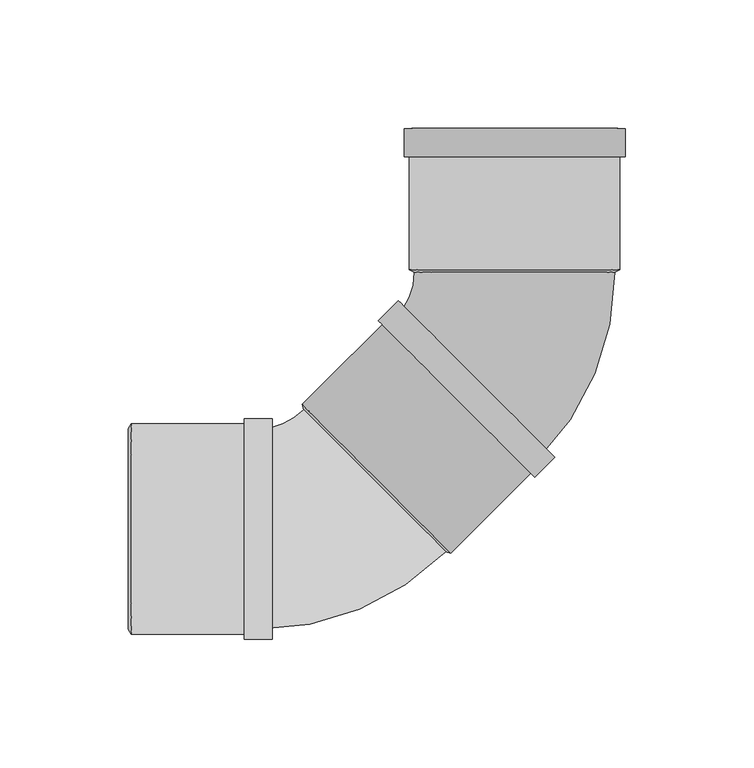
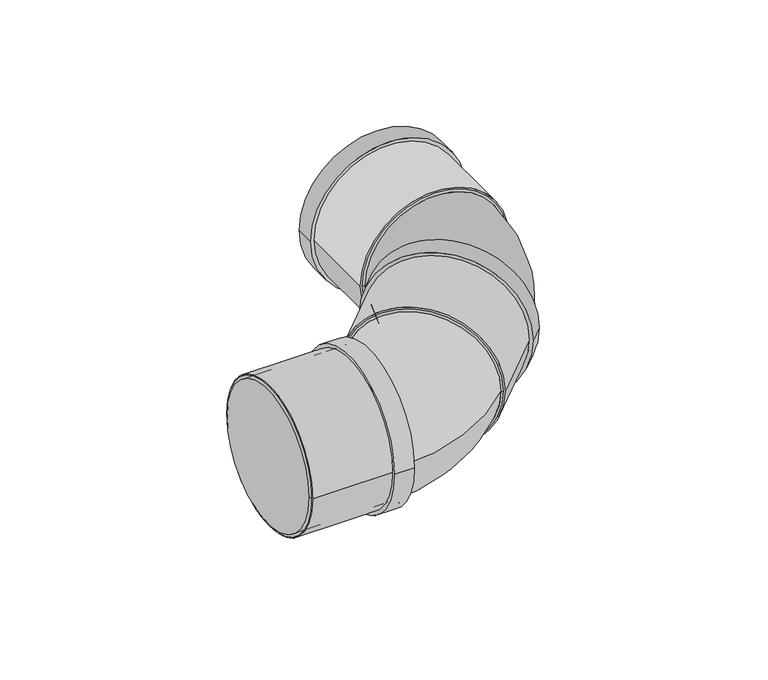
"""IFC4 building model written with IfcOpenShell, lengths in millimetres: pipe fitting geometry, Superdrain SK Bend_Composite 2x45 : Superdrain SK Bend_Composite 2x45."""

from ifc_helpers import new_model, si_unit, point, frame, origin, origin_2d, place, context, project, spatial, polyline, circle_curve, ellipse_curve, trimmed, segment, composite_curve, outline, extrude, source, transform, mapped, element, save
from ifc_brep_helpers import plane_surface, revolved_surface, advanced_brep


def pipe_fitting_2d7897f2(model_context):
    return source(origin(), model_context, "Body", "SolidModel", [
        advanced_brep(
        [(39.0, 99.8562625, 0.0), (-39.0, 99.8562625, 0.0), (8.7681241, 26.8700577, 0.0), (-46.3862048, 82.0243866, 0.0)],
        [
            (0, 1, circle_curve(frame((0.0, 99.8562625, 0.0), z_axis=(0.0, 1.0, 0.0), x_axis=(-1.0, 0.0, 0.0)), 39.0)),
            (1, 0, circle_curve(frame((0.0, 99.8562625, 0.0), z_axis=(0.0, 0.9999999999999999, 0.0), x_axis=(-0.9999999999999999, 0.0, 0.0)), 39.0)),
            (2, 3, circle_curve(frame((-18.8090404, 54.4472222, 0.0), z_axis=(-0.7071067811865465, -0.7071067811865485, 0.0), x_axis=(-0.7071067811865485, 0.7071067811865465, 0.0)), 39.0)),
            (3, 2, circle_curve(frame((-18.8090404, 54.4472222, 0.0), z_axis=(-0.7071067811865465, -0.7071067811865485, 0.0), x_axis=(-0.7071067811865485, 0.7071067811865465, 0.0)), 39.0)),
            (3, 1, circle_curve(frame((-64.2180808, 99.8562625, 0.0), z_axis=(0.0, 0.0, 1.0), x_axis=(0.7071067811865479, 0.707106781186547, 0.0)), 25.2180808)),
            (0, 2, circle_curve(frame((-64.2180808, 99.8562625, 0.0), z_axis=(0.0, 0.0, -1.0), x_axis=(0.7071067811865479, 0.707106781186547, 0.0)), 103.2180808)),
        ],
        [
            plane_surface(frame((0.0, 99.8562625, 0.0), z_axis=(0.0, 1.0, 0.0), x_axis=(0.0, 0.0, -1.0))),
            plane_surface(frame((-18.8090404, 54.4472222, 0.0), z_axis=(-0.7071067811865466, -0.7071067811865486, 0.0), x_axis=(0.0, 0.0, -1.0))),
            revolved_surface(trimmed(ellipse_curve(frame((-18.8090404, 145.2653029, 0.0), z_axis=(0.707106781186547, -0.7071067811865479, 0.0), x_axis=(-0.7071067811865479, -0.707106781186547, 0.0)), 39.0, 39.0), [point((-46.3862048, 117.6881384, 0.0))], [point((8.7681241, 172.8424674, 0.0))], True, "CARTESIAN"), (-64.2180808, 99.8562625, 0.0), (0.0, 0.0, 1.0)),
            revolved_surface(trimmed(ellipse_curve(frame((-18.8090404, 145.2653029, 0.0), z_axis=(0.707106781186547, -0.7071067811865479, 0.0), x_axis=(-0.7071067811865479, -0.707106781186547, 0.0)), 39.0, 39.0), [point((8.7681241, 172.8424674, 0.0))], [point((-46.3862048, 117.6881384, 0.0))], True, "CARTESIAN"), (-64.2180808, 99.8562625, 0.0), (0.0, 0.0, 1.0)),
        ],
        [
            (0, [[1, 2]]),
            (1, [[3, 4]]),
            (2, [[-4, 5, -1, 6]]),
            (3, [[-3, -6, -2, -5]]),
        ],
    ),
        extrude(outline(composite_curve([segment(trimmed(circle_curve(origin_2d(), 40.95), [point((0.0, 40.95))], [point((0.0, -40.95))], False, "CARTESIAN"), True, "CONTINUOUS"), segment(trimmed(circle_curve(origin_2d(), 40.95), [point((0.0, -40.95))], [point((0.0, 40.95))], False, "CARTESIAN"), True, "CONTINUOUS")], self_intersect=False), holes=[composite_curve([segment(trimmed(circle_curve(origin_2d(), 39.0), [point((0.0, 39.0))], [point((0.0, -39.0))], True, "CARTESIAN"), True, "CONTINUOUS"), segment(trimmed(circle_curve(origin_2d(), 39.0), [point((0.0, -39.0))], [point((0.0, 39.0))], True, "CARTESIAN"), True, "CONTINUOUS")], self_intersect=False)]), frame((0.0, 100.8562625, 0.0), z_axis=(0.0, 1.0, 0.0), x_axis=(0.0, 0.0, 1.0)), (0.0, 0.0, 1.0), 55.0),
        extrude(outline(composite_curve([segment(trimmed(circle_curve(origin_2d(), 42.9975), [point((0.0, -42.9975))], [point((0.0, 42.9975))], False, "CARTESIAN"), True, "CONTINUOUS"), segment(trimmed(circle_curve(origin_2d(), 42.9975), [point((0.0, 42.9975))], [point((0.0, -42.9975))], False, "CARTESIAN"), True, "CONTINUOUS")], self_intersect=False), holes=[composite_curve([segment(trimmed(circle_curve(origin_2d(), 39.0), [point((0.0, -39.0))], [point((0.0, 39.0))], True, "CARTESIAN"), True, "CONTINUOUS"), segment(trimmed(circle_curve(origin_2d(), 39.0), [point((0.0, 39.0))], [point((0.0, -39.0))], True, "CARTESIAN"), True, "CONTINUOUS")], self_intersect=False)]), frame((0.0, 144.8562625, 0.0), z_axis=(0.0, 1.0, 0.0), x_axis=(0.0, 0.0, 1.0)), (0.0, 0.0, 1.0), 11.0),
        advanced_brep(
        [(40.95, 100.8562625, 0.0), (-40.95, 100.8562625, 0.0), (39.0, 99.8562625, 0.0), (-39.0, 99.8562625, 0.0)],
        [
            (0, 1, circle_curve(frame((0.0, 100.8562625, 0.0), z_axis=(0.0, 1.0, 0.0), x_axis=(0.9999999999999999, 0.0, 0.0)), 40.95)),
            (1, 0, circle_curve(frame((0.0, 100.8562625, 0.0), z_axis=(0.0, 1.0, 0.0), x_axis=(-1.0, 0.0, 0.0)), 40.95)),
            (2, 3, circle_curve(frame((0.0, 99.8562625, 0.0), z_axis=(0.0, -1.0, 0.0), x_axis=(-1.0, 0.0, 0.0)), 39.0)),
            (3, 2, circle_curve(frame((0.0, 99.8562625, 0.0), z_axis=(0.0, -1.0, 0.0), x_axis=(0.9999999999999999, 0.0, 0.0)), 39.0)),
            (3, 1),
            (0, 2),
        ],
        [
            plane_surface(frame((0.0, 100.8562625, 0.0), z_axis=(0.0, 1.0, 0.0), x_axis=(0.0, 0.0, -1.0))),
            plane_surface(frame((0.0, 99.8562625, 0.0), z_axis=(0.0, -1.0, 0.0), x_axis=(0.0, 0.0, -1.0))),
            revolved_surface(polyline([(-39.0, 99.8562625, 0.0), (-40.95, 100.8562625, 0.0)]), (0.0, 79.8562625, 0.0), (0.0, 0.9999999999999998, 0.0)),
            revolved_surface(polyline([(39.0, 99.8562625, 0.0), (40.95, 100.8562625, 0.0)]), (0.0, 79.8562625, 0.0), (0.0, 0.9999999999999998, 0.0)),
        ],
        [
            (0, [[1, 2]]),
            (1, [[3, 4]]),
            (2, [[-4, 5, -1, 6]]),
            (3, [[-3, -6, -2, -5]]),
        ],
    ),
        extrude(outline(composite_curve([segment(trimmed(circle_curve(origin_2d(), 39.0), [point((0.0, -39.0))], [point((0.0, 38.9999999))], False, "CARTESIAN"), True, "CONTINUOUS"), segment(trimmed(circle_curve(origin_2d(), 39.0), [point((0.0, 38.9999999))], [point((0.0, -39.0))], False, "CARTESIAN"), True, "CONTINUOUS")], self_intersect=False)), frame((-53.7401154, 19.5161472, 0.0), z_axis=(0.707106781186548, 0.7071067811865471, 0.0), x_axis=(0.0, 0.0, -1.0)), (0.0, 0.0, 1.0), 49.4),
        extrude(outline(composite_curve([segment(trimmed(circle_curve(origin_2d(), 40.95), [point((40.95, 0.0))], [point((-40.95, 0.0))], False, "CARTESIAN"), True, "CONTINUOUS"), segment(trimmed(circle_curve(origin_2d(), 40.95), [point((-40.95, 0.0))], [point((40.95, 0.0))], False, "CARTESIAN"), True, "CONTINUOUS")], self_intersect=False), holes=[composite_curve([segment(trimmed(circle_curve(origin_2d(), 39.0), [point((39.0, 0.0))], [point((-39.0, 0.0))], True, "CARTESIAN"), True, "CONTINUOUS"), segment(trimmed(circle_curve(origin_2d(), 39.0), [point((-39.0, 0.0))], [point((39.0, 0.0))], True, "CARTESIAN"), True, "CONTINUOUS")], self_intersect=False)]), frame((-149.2562625, 0.0, 0.0), z_axis=(1.0, 0.0, 0.0), x_axis=(0.0, 1.0, 0.0)), (0.0, 0.0, 1.0), 55.0),
        extrude(outline(composite_curve([segment(trimmed(circle_curve(origin_2d(), 42.9975), [point((42.9975, 0.0))], [point((-42.9975, 0.0))], False, "CARTESIAN"), True, "CONTINUOUS"), segment(trimmed(circle_curve(origin_2d(), 42.9975), [point((-42.9975, 0.0))], [point((42.9975, 0.0))], False, "CARTESIAN"), True, "CONTINUOUS")], self_intersect=False), holes=[composite_curve([segment(trimmed(circle_curve(origin_2d(), 39.0), [point((39.0, 0.0))], [point((-39.0, 0.0))], True, "CARTESIAN"), True, "CONTINUOUS"), segment(trimmed(circle_curve(origin_2d(), 39.0), [point((-39.0, 0.0))], [point((39.0, 0.0))], True, "CARTESIAN"), True, "CONTINUOUS")], self_intersect=False)]), frame((-105.2562625, 0.0, 0.0), z_axis=(1.0, 0.0, 0.0), x_axis=(0.0, 1.0, 0.0)), (0.0, 0.0, 1.0), 11.0),
        advanced_brep(
        [(-150.2562625, 39.0, 0.0), (-150.2562625, -39.0, 0.0), (-149.2562625, 40.95, 0.0), (-149.2562625, -40.95, 0.0)],
        [
            (0, 1, circle_curve(frame((-150.2562625, 0.0, 0.0), z_axis=(-1.0, 0.0, 0.0), x_axis=(0.0, 1.0000000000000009, 0.0)), 39.0)),
            (1, 0, circle_curve(frame((-150.2562625, 0.0, 0.0), z_axis=(-1.0, 0.0, 0.0), x_axis=(0.0, -1.0000000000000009, 0.0)), 39.0)),
            (2, 3, circle_curve(frame((-149.2562625, 0.0, 0.0), z_axis=(1.0, 0.0, 0.0), x_axis=(0.0, -1.0000000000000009, 0.0)), 40.95)),
            (3, 2, circle_curve(frame((-149.2562625, 0.0, 0.0), z_axis=(1.0, 0.0, 0.0), x_axis=(0.0, 1.0000000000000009, 0.0)), 40.95)),
            (3, 1),
            (0, 2),
        ],
        [
            plane_surface(frame((-150.2562625, 0.0, 0.0), z_axis=(-1.0, 0.0, 0.0), x_axis=(0.0, 0.0, -1.0))),
            plane_surface(frame((-149.2562625, 0.0, 0.0), z_axis=(1.0, 0.0, 0.0), x_axis=(0.0, 0.0, -1.0))),
            revolved_surface(polyline([(-150.2562625, 38.99999999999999, 0.0), (-149.2562625, 40.95, 0.0)]), (-170.2562625, 0.0, 0.0), (1.0000000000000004, 0.0, 0.0)),
            revolved_surface(polyline([(-150.2562625, -38.99999999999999, 0.0), (-149.2562625, -40.95, 0.0)]), (-170.2562625, 0.0, 0.0), (1.0000000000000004, 0.0, 0.0)),
        ],
        [
            (0, [[1, 2]]),
            (1, [[3, 4]]),
            (2, [[-4, 5, -1, 6]]),
            (3, [[-3, -6, -2, -5]]),
        ],
    ),
        advanced_brep(
        [(-26.8700577, -8.7681241, 0.0), (-82.0243866, 46.3862048, 0.0), (-99.8562625, -39.0, 0.0), (-99.8562625, 39.0, 0.0)],
        [
            (0, 1, circle_curve(frame((-54.4472222, 18.8090404, 0.0), z_axis=(0.7071067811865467, 0.7071067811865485, 0.0), x_axis=(-0.7071067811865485, 0.7071067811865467, 0.0)), 39.0)),
            (1, 0, circle_curve(frame((-54.4472222, 18.8090404, 0.0), z_axis=(0.7071067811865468, 0.7071067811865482, 0.0), x_axis=(-0.7071067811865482, 0.7071067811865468, 0.0)), 39.0)),
            (2, 3, circle_curve(frame((-99.8562625, 0.0, 0.0), z_axis=(-1.0, 0.0, 0.0), x_axis=(0.0, 1.0, 0.0)), 39.0)),
            (3, 2, circle_curve(frame((-99.8562625, 0.0, 0.0), z_axis=(-1.0, 0.0, 0.0), x_axis=(0.0, 1.0, 0.0)), 39.0)),
            (3, 1, circle_curve(frame((-99.8562625, 64.2180808, 0.0), z_axis=(0.0, 0.0, 1.0), x_axis=(1.0, 0.0, 0.0)), 25.2180808)),
            (0, 2, circle_curve(frame((-99.8562625, 64.2180808, 0.0), z_axis=(0.0, 0.0, -1.0), x_axis=(1.0, 0.0, 0.0)), 103.2180808)),
        ],
        [
            plane_surface(frame((-54.4472222, 18.8090404, 0.0), z_axis=(0.7071067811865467, 0.7071067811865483, 0.0), x_axis=(0.0, 0.0, -1.0))),
            plane_surface(frame((-99.8562625, 0.0, 0.0), z_axis=(-1.0, 0.0, 0.0), x_axis=(0.0, 0.0, -1.0))),
            revolved_surface(trimmed(ellipse_curve(frame((-35.6381818, 64.2180808, 0.0), z_axis=(0.0, -1.0, 0.0), x_axis=(-1.0, 0.0, 0.0)), 39.0, 39.0), [point((-74.6381818, 64.2180808, 0.0))], [point((3.3618182, 64.2180808, 0.0))], True, "CARTESIAN"), (-99.8562625, 64.2180808, 0.0), (0.0, 0.0, 1.0)),
            revolved_surface(trimmed(ellipse_curve(frame((-35.6381818, 64.2180808, 0.0), z_axis=(0.0, -1.0, 0.0), x_axis=(-1.0, 0.0, 0.0)), 39.0, 39.0), [point((3.3618182, 64.2180808, 0.0))], [point((-74.6381818, 64.2180808, 0.0))], True, "CARTESIAN"), (-99.8562625, 64.2180808, 0.0), (0.0, 0.0, 1.0)),
        ],
        [
            (0, [[1, 2]]),
            (1, [[3, 4]]),
            (2, [[-4, 5, -1, 6]]),
            (3, [[-3, -6, -2, -5]]),
        ],
    ),
        extrude(outline(composite_curve([segment(trimmed(circle_curve(origin_2d(), 40.95), [point((0.0, 40.95))], [point((0.0, -40.95))], False, "CARTESIAN"), True, "CONTINUOUS"), segment(trimmed(circle_curve(origin_2d(), 40.95), [point((0.0, -40.95))], [point((0.0, 40.95))], False, "CARTESIAN"), True, "CONTINUOUS")], self_intersect=False), holes=[composite_curve([segment(trimmed(circle_curve(origin_2d(), 39.0), [point((0.0, 39.0))], [point((0.0, -38.9999999))], True, "CARTESIAN"), True, "CONTINUOUS"), segment(trimmed(circle_curve(origin_2d(), 39.0), [point((0.0, -38.9999999))], [point((0.0, 39.0))], True, "CARTESIAN"), True, "CONTINUOUS")], self_intersect=False)]), frame((-53.7401154, 19.5161472, 0.0), z_axis=(0.7071067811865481, 0.707106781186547, 0.0), x_axis=(0.0, 0.0, 1.0)), (0.0, 0.0, 1.0), 55.0),
        extrude(outline(composite_curve([segment(trimmed(circle_curve(origin_2d(), 42.9975), [point((0.0, -42.9975))], [point((0.0, 42.9975))], False, "CARTESIAN"), True, "CONTINUOUS"), segment(trimmed(circle_curve(origin_2d(), 42.9975), [point((0.0, 42.9975))], [point((0.0, -42.9975))], False, "CARTESIAN"), True, "CONTINUOUS")], self_intersect=False), holes=[composite_curve([segment(trimmed(circle_curve(origin_2d(), 39.0), [point((0.0, -39.0))], [point((0.0, 39.0))], True, "CARTESIAN"), True, "CONTINUOUS"), segment(trimmed(circle_curve(origin_2d(), 39.0), [point((0.0, 39.0))], [point((0.0, -39.0))], True, "CARTESIAN"), True, "CONTINUOUS")], self_intersect=False)]), frame((-22.627417, 50.6288455, 0.0), z_axis=(0.7071067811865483, 0.7071067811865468, 0.0), x_axis=(0.0, 0.0, 1.0)), (0.0, 0.0, 1.0), 11.0),
        advanced_brep(
        [(-24.7840927, -9.4398755, 0.0), (-82.6961381, 48.4721699, 0.0), (-26.8700577, -8.7681241, 0.0), (-82.0243866, 46.3862048, 0.0)],
        [
            (0, 1, circle_curve(frame((-53.7401154, 19.5161472, 0.0), z_axis=(0.7071067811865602, 0.7071067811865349, 0.0), x_axis=(0.7071067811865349, -0.7071067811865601, 0.0)), 40.95)),
            (1, 0, circle_curve(frame((-53.7401154, 19.5161472, 0.0), z_axis=(0.7071067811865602, 0.7071067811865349, 0.0), x_axis=(-0.7071067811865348, 0.7071067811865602, 0.0)), 40.95)),
            (2, 3, circle_curve(frame((-54.4472222, 18.8090404, 0.0), z_axis=(-0.7071067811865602, -0.7071067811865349, 0.0), x_axis=(-0.7071067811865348, 0.7071067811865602, 0.0)), 39.0)),
            (3, 2, circle_curve(frame((-54.4472222, 18.8090404, 0.0), z_axis=(-0.7071067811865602, -0.7071067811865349, 0.0), x_axis=(0.7071067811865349, -0.7071067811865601, 0.0)), 39.0)),
            (3, 1),
            (0, 2),
        ],
        [
            plane_surface(frame((-53.7401154, 19.5161472, 0.0), z_axis=(0.7071067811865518, 0.7071067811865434, 0.0), x_axis=(0.0, 0.0, -1.0))),
            plane_surface(frame((-54.4472222, 18.8090404, 0.0), z_axis=(-0.7071067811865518, -0.7071067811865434, 0.0), x_axis=(0.0, 0.0, -1.0))),
            revolved_surface(polyline([(-82.02438663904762, 46.38620483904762, 0.0), (-82.69613810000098, 48.47216990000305, 0.0)]), (-68.5893578, 4.6669048, 0.0), (0.7071067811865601, 0.7071067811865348, 0.0)),
            revolved_surface(polyline([(-26.870057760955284, -8.768124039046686, 0.0), (-24.784092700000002, -9.4398755, 0.0)]), (-68.5893578, 4.6669048, 0.0), (0.7071067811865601, 0.7071067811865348, 0.0)),
        ],
        [
            (0, [[1, 2]]),
            (1, [[3, 4]]),
            (2, [[-4, 5, -1, 6]]),
            (3, [[-3, -6, -2, -5]]),
        ],
    ),
        extrude(outline(composite_curve([segment(trimmed(circle_curve(origin_2d(), 39.0), [point((-39.0, 0.0))], [point((39.0, 0.0))], False, "CARTESIAN"), True, "CONTINUOUS"), segment(trimmed(circle_curve(origin_2d(), 39.0), [point((39.0, 0.0))], [point((-39.0, 0.0))], False, "CARTESIAN"), True, "CONTINUOUS")], self_intersect=False)), frame((-149.2562625, 0.0, 0.0), z_axis=(1.0, 0.0, 0.0), x_axis=(0.0, 1.0, 0.0)), (0.0, 0.0, 1.0), 49.4),
    ])


if __name__ == "__main__":
    model = new_model("IFC4")
    model_context = context("Model", 3, world=origin())
    ifc_project = project(units=[si_unit("LENGTHUNIT", "METRE", prefix="MILLI")], contexts=[model_context])
    site = spatial("IfcSite", under=ifc_project)
    building = spatial("IfcBuilding", under=site)
    placement = place(None, origin())
    pipe_fitting_shape = pipe_fitting_2d7897f2(model_context)
    element("IfcPipeFitting", 1, ObjectType="Superdrain SK Bend_Composite 2x45 : Superdrain SK Bend_Composite 2x45", at=placement, inside=building, context=model_context, shape_type="MappedRepresentation", body=[
        mapped(pipe_fitting_shape, transform((0.0, 0.0, 0.0), x_axis=(1.0, 0.0, 0.0), y_axis=(0.0, 1.0, 0.0), z_axis=(0.0, 0.0, 1.0))),
    ])
    save(model, "model.ifc")
